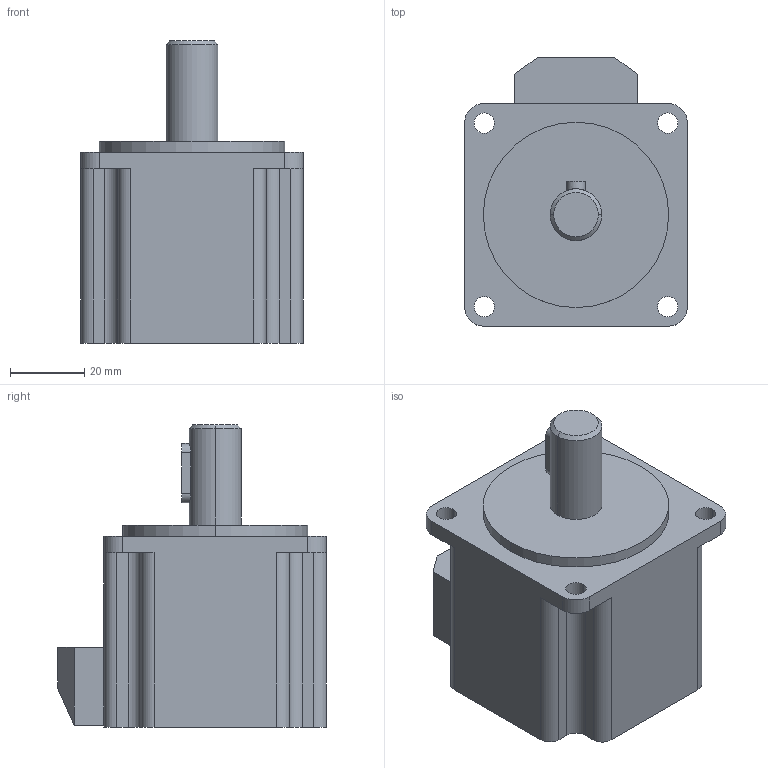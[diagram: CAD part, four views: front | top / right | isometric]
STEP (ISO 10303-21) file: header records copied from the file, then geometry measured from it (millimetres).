
FILE_DESCRIPTION (( 'STEP AP203' ), '1' );
FILE_NAME ('307080056 SMS060-02030D10M0NL-M01.STEP', '2022-05-12T07:22:06', ( 'Windows 蚚誧' ), ( 'Organization' ), 'SwSTEP 2.0', 'SolidWorks 2018', '' );
FILE_SCHEMA (( 'CONFIG_CONTROL_DESIGN' ));
Length unit declared in the file: millimetre
Products named in the file (1): 307080056 SMS060-02030D10M0NL-M01
Bounding box: 60 x 72.5 x 81.5 mm (x, y, z)
Volume: 183300.3 mm3; surface area: 21531 mm2
Topology: 1 solids, 1 shells, 65 faces, 172 edges, 112 vertices
Faces by surface type: plane 32, cylinder 31, cone 2
Entity records: 2175 total; most frequent: CARTESIAN_POINT 415, DIRECTION 362, ORIENTED_EDGE 344, EDGE_CURVE 172, AXIS2_PLACEMENT_3D 127, VERTEX_POINT 112, VECTOR 108, LINE 108
